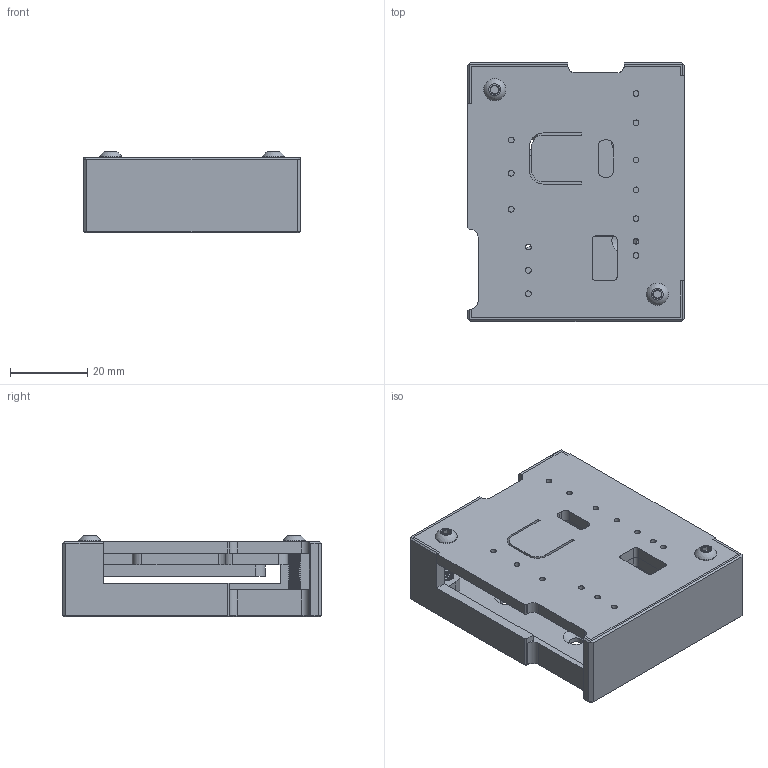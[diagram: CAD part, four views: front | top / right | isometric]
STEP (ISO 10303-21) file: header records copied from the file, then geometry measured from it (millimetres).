
FILE_DESCRIPTION(/* description */ (''),/* implementation_level */ '2;1');
FILE_NAME(/* name */ 'DIG3D.R.CU.step',/* time_stamp */ '2025-05-06T12:16:11+02:00',/* author */ (''),/* organization */ (''),/* preprocessor_version */ 'ST-DEVELOPER v20.1',/* originating_system */ 'Autodesk Translation Framework v14.4.0.0',/* authorisation */ '');
FILE_SCHEMA (('AUTOMOTIVE_DESIGN { 1 0 10303 214 3 1 1 }'));
Length unit declared in the file: millimetre
Products named in the file (2): DIG3D.R.CU; 97763A456_18-8 Stainless Steel Button Head Hex Drive Screws
Assembly tree (2 placements, depth 2):
  DIG3D.R.CU
    97763A456_18-8 Stainless Steel Button Head Hex Drive Screws  x2
Bounding box: 55.98 x 66.85 x 21.05 mm (x, y, z)
Volume: 30221.6 mm3; surface area: 24452.1 mm2
Topology: 6 solids, 6 shells, 408 faces, 1096 edges, 707 vertices
Faces by surface type: cylinder 206, plane 158, cone 38, bspline 4, sphere 2
Full cylindrical faces by diameter (mm): 1.49 x13, 1.6 x14, 2.35 x60, 3 x64, 3.5 x4, 3.9 x2, 4.2 x2, 5.7 x2
Entity records: 16122 total; most frequent: CARTESIAN_POINT 8028, ORIENTED_EDGE 1716, DIRECTION 1546, EDGE_CURVE 858, VERTEX_POINT 552, LINE 528, VECTOR 528, AXIS2_PLACEMENT_3D 509
